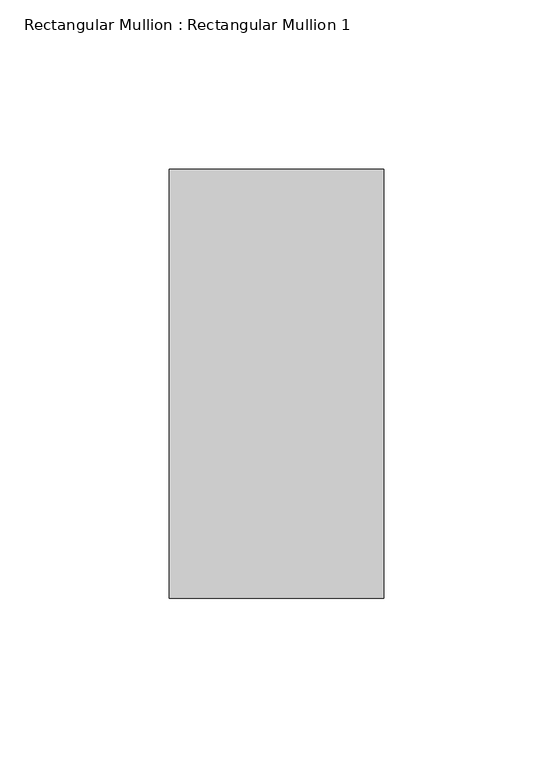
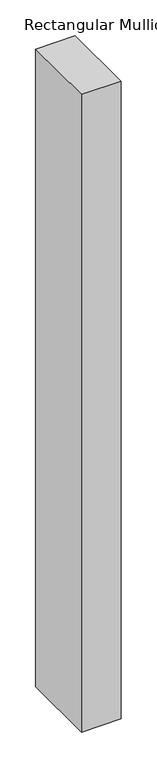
"""IFC4 building model written with IfcOpenShell, lengths in millimetres: member geometry, Rectangular Mullion : Rectangular Mullion 1."""

from ifc_helpers import new_model, si_unit, frame, origin, place, context, project, spatial, polyline, outline, extrude, source, transform, mapped, element, save


def rectangular_mullion_rectangular_mullion_1_02b6d1f6(model_context):
    return source(origin(), model_context, "Body", "SweptSolid", [
        extrude(outline(polyline([(31.75, 63.5), (31.75, -63.5), (-31.75, -63.5), (-31.75, 63.5), (31.75, 63.5)])), frame((0.0, 0.0, -1083.31), z_axis=(0.0, 0.0, 1.0), x_axis=(1.0, 0.0, 0.0)), (0.0, 0.0, 1.0), 1083.31),
    ])


if __name__ == "__main__":
    model = new_model("IFC4")
    model_context = context("Model", 3, world=origin())
    ifc_project = project(units=[si_unit("LENGTHUNIT", "METRE", prefix="MILLI")], contexts=[model_context])
    site = spatial("IfcSite", under=ifc_project)
    building = spatial("IfcBuilding", under=site)
    placement = place(None, origin())
    rectangular_mullion_rectangular_mullion_1_shape = rectangular_mullion_rectangular_mullion_1_02b6d1f6(model_context)
    element("IfcMember", 1, ObjectType="Rectangular Mullion : Rectangular Mullion 1", at=placement, inside=building, context=model_context, shape_type="MappedRepresentation", body=[
        mapped(rectangular_mullion_rectangular_mullion_1_shape, transform((0.0, 0.0, 0.0), x_axis=(1.0, 0.0, 0.0), y_axis=(0.0, 1.0, 0.0), z_axis=(0.0, 0.0, 1.0))),
    ])
    save(model, "model.ifc")
